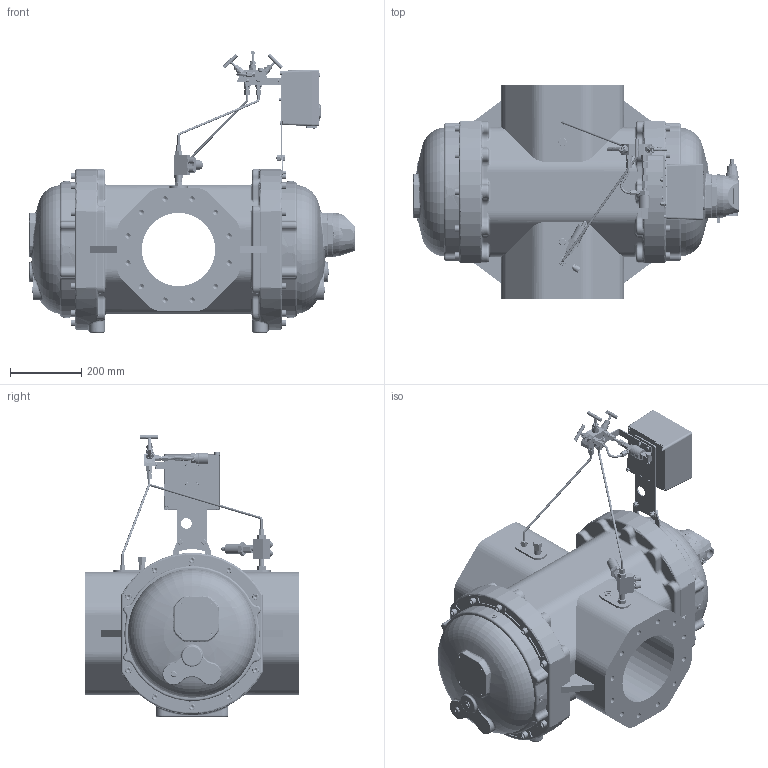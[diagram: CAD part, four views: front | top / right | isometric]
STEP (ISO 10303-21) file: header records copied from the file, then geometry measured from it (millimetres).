
FILE_DESCRIPTION(('STEP AP203'), '1');
FILE_NAME('楥-2230-G1000', '', ('UNSPECIFIED'), ('UNSPECIFIED'), 'C3D Converter', 'C3D Toolkit', '');
FILE_SCHEMA(('CONFIG_CONTROL_DESIGN'));
Length unit declared in the file: millimetre
Bounding box: 918 x 600 x 793.5 mm (x, y, z)
Volume: 101276667.8 mm3; surface area: 2574849.9 mm2
Topology: 5 solids, 8 shells, 11154 faces, 30872 edges, 20553 vertices
Faces by surface type: plane 5438, extrusion 2990, cylinder 1930, torus 299, cone 274, bspline 208, sphere 15
Full cylindrical faces by diameter (mm): 1 x23, 1.5 x1, 2 x11, 2.2 x1, 2.5 x4, 3 x17, 3.5 x4, 4 x29, 4.4 x1, 4.917 x4, 5 x5, 5.4 x1, 5.5 x5, 6 x15, 6.381 x1, 6.4 x2, 6.5 x9, 7 x14, 7.4 x4, 7.5 x7, 8 x5, 8.466 x1, 8.5 x9, 9.4 x9, 9.526 x2, 9.65 x1, 10 x22, 11 x8, 11.002 x1, 11.835 x2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
Entity records: 531114 total; most frequent: CARTESIAN_POINT 173989, ORIENTED_EDGE 58902, DIRECTION 45090, EDGE_CURVE 30051, VERTEX_POINT 20449, VECTOR 19788, LINE 16798, EDGE_LOOP 12867
